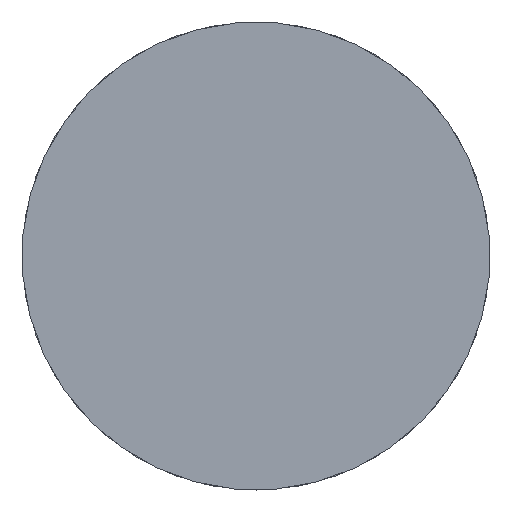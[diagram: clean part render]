
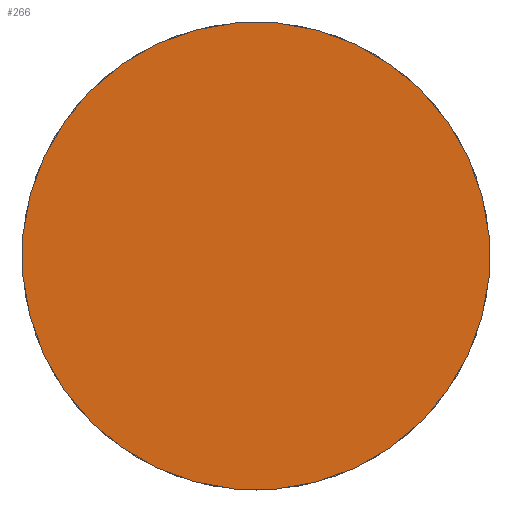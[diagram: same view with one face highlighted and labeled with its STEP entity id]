
A CAD part, left-side view. The second image highlights one B-rep face of the part: STEP entity #266.
In plain terms, the highlighted planar face has unit normal (-1, 0, 0).
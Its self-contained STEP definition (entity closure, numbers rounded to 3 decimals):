
#9 = VERTEX_POINT ( 'NONE', #276 ) ;
#25 = DIRECTION ( 'NONE',  ( 1., 0., 0. ) ) ;
#30 = AXIS2_PLACEMENT_3D ( 'NONE', #310, #25, #99 ) ;
#53 = CARTESIAN_POINT ( 'NONE',  ( -50., 3., 0. ) ) ;
#78 = CARTESIAN_POINT ( 'NONE',  ( -50., 0., 0. ) ) ;
#81 = CIRCLE ( 'NONE', #30, 3. ) ;
#88 = ORIENTED_EDGE ( 'NONE', *, *, #290, .F. ) ;
#99 = DIRECTION ( 'NONE',  ( 0., 0., -1. ) ) ;
#126 = FACE_OUTER_BOUND ( 'NONE', #249, .T. ) ;
#208 = PLANE ( 'NONE',  #217 ) ;
#213 = DIRECTION ( 'NONE',  ( -1., 0., 0. ) ) ;
#217 = AXIS2_PLACEMENT_3D ( 'NONE', #53, #213, #231 ) ;
#231 = DIRECTION ( 'NONE',  ( 0., 0., 1. ) ) ;
#246 = VERTEX_POINT ( 'NONE', #282 ) ;
#249 = EDGE_LOOP ( 'NONE', ( #88, #317 ) ) ;
#253 = EDGE_CURVE ( 'NONE', #246, #9, #81, .T. ) ;
#260 = DIRECTION ( 'NONE',  ( 1., 0., 0. ) ) ;
#266 = ADVANCED_FACE ( 'NONE', ( #126 ), #208, .T. ) ;
#276 = CARTESIAN_POINT ( 'NONE',  ( -50., 0., -3. ) ) ;
#282 = CARTESIAN_POINT ( 'NONE',  ( -50., 0., 3. ) ) ;
#287 = DIRECTION ( 'NONE',  ( 0., 0., -1. ) ) ;
#290 = EDGE_CURVE ( 'NONE', #9, #246, #328, .T. ) ;
#301 = AXIS2_PLACEMENT_3D ( 'NONE', #78, #260, #287 ) ;
#310 = CARTESIAN_POINT ( 'NONE',  ( -50., 0., 0. ) ) ;
#317 = ORIENTED_EDGE ( 'NONE', *, *, #253, .F. ) ;
#328 = CIRCLE ( 'NONE', #301, 3. ) ;
